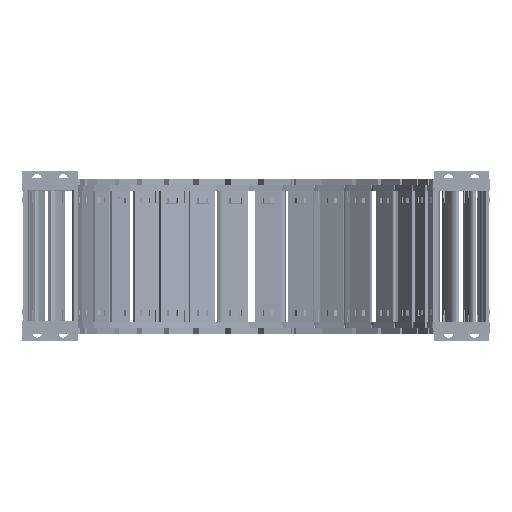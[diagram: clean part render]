
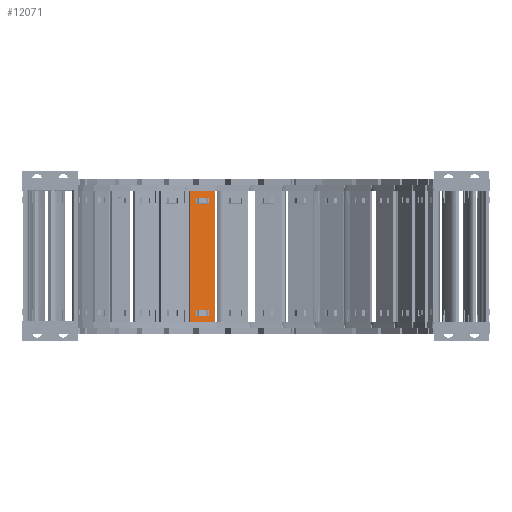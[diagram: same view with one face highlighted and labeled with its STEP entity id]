
A CAD part, top view. The second image highlights one B-rep face of the part: STEP entity #12071.
In plain terms, the highlighted planar face has unit normal (0.276, 0, 0.961).
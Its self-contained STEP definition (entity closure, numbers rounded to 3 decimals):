
#93=FACE_BOUND('',#29521,.T.);
#94=FACE_BOUND('',#29522,.T.);
#95=FACE_BOUND('',#29523,.T.);
#6626=PLANE('',#157334);
#12071=ADVANCED_FACE('',(#93,#94,#95),#6626,.F.);
#29521=EDGE_LOOP('',(#43709,#43710,#43711,#43712));
#29522=EDGE_LOOP('',(#43713,#43714,#43715,#43716));
#29523=EDGE_LOOP('',(#43717,#43718,#43719,#43720));
#43709=ORIENTED_EDGE('',*,*,#104001,.F.);
#43710=ORIENTED_EDGE('',*,*,#103972,.F.);
#43711=ORIENTED_EDGE('',*,*,#104006,.F.);
#43712=ORIENTED_EDGE('',*,*,#103983,.F.);
#43713=ORIENTED_EDGE('',*,*,#104018,.F.);
#43714=ORIENTED_EDGE('',*,*,#104011,.F.);
#43715=ORIENTED_EDGE('',*,*,#104050,.F.);
#43716=ORIENTED_EDGE('',*,*,#104025,.T.);
#43717=ORIENTED_EDGE('',*,*,#104048,.T.);
#43718=ORIENTED_EDGE('',*,*,#104051,.F.);
#43719=ORIENTED_EDGE('',*,*,#104052,.F.);
#43720=ORIENTED_EDGE('',*,*,#104053,.F.);
#88544=VERTEX_POINT('',#216627);
#88545=VERTEX_POINT('',#216629);
#88551=VERTEX_POINT('',#216644);
#88554=VERTEX_POINT('',#216650);
#88571=VERTEX_POINT('',#216707);
#88572=VERTEX_POINT('',#216708);
#88578=VERTEX_POINT('',#216722);
#88581=VERTEX_POINT('',#216730);
#88594=VERTEX_POINT('',#216777);
#88595=VERTEX_POINT('',#216779);
#88596=VERTEX_POINT('',#216784);
#88597=VERTEX_POINT('',#216786);
#103972=EDGE_CURVE('',#88544,#88545,#126762,.T.);
#103983=EDGE_CURVE('',#88554,#88551,#126773,.T.);
#104001=EDGE_CURVE('',#88545,#88554,#126788,.T.);
#104006=EDGE_CURVE('',#88551,#88544,#126793,.T.);
#104011=EDGE_CURVE('',#88571,#88572,#126798,.T.);
#104018=EDGE_CURVE('',#88572,#88578,#126805,.T.);
#104025=EDGE_CURVE('',#88581,#88578,#126812,.T.);
#104048=EDGE_CURVE('',#88595,#88594,#126826,.T.);
#104050=EDGE_CURVE('',#88581,#88571,#126828,.T.);
#104051=EDGE_CURVE('',#88596,#88594,#126829,.T.);
#104052=EDGE_CURVE('',#88597,#88596,#126830,.T.);
#104053=EDGE_CURVE('',#88595,#88597,#126831,.T.);
#126762=LINE('',#216628,#142054);
#126773=LINE('',#216651,#142065);
#126788=LINE('',#216686,#142080);
#126793=LINE('',#216695,#142085);
#126798=LINE('',#216706,#142090);
#126805=LINE('',#216721,#142097);
#126812=LINE('',#216734,#142104);
#126826=LINE('',#216778,#142118);
#126828=LINE('',#216782,#142120);
#126829=LINE('',#216783,#142121);
#126830=LINE('',#216785,#142122);
#126831=LINE('',#216787,#142123);
#142054=VECTOR('',#172519,1.);
#142065=VECTOR('',#172534,1.);
#142080=VECTOR('',#172569,1.);
#142085=VECTOR('',#172578,1.);
#142090=VECTOR('',#172587,1.);
#142097=VECTOR('',#172596,1.);
#142104=VECTOR('',#172605,1.);
#142118=VECTOR('',#172655,1.);
#142120=VECTOR('',#172659,1.);
#142121=VECTOR('',#172660,1.);
#142122=VECTOR('',#172661,1.);
#142123=VECTOR('',#172662,1.);
#157334=AXIS2_PLACEMENT_3D('',#216788,#172663,#172664);
#172519=DIRECTION('',(0.961,0.,-0.276));
#172534=DIRECTION('',(-0.961,0.,0.276));
#172569=DIRECTION('',(0.,1.,0.));
#172578=DIRECTION('',(0.,-1.,0.));
#172587=DIRECTION('',(-0.961,0.,0.276));
#172596=DIRECTION('',(0.,-1.,0.));
#172605=DIRECTION('',(-0.961,0.,0.276));
#172655=DIRECTION('',(0.,-1.,0.));
#172659=DIRECTION('',(0.,1.,0.));
#172660=DIRECTION('',(-0.961,0.,0.276));
#172661=DIRECTION('',(0.,-1.,0.));
#172662=DIRECTION('',(0.961,0.,-0.276));
#172663=DIRECTION('',(-0.276,0.,-0.961));
#172664=DIRECTION('',(-0.961,0.,0.276));
#216627=CARTESIAN_POINT('',(-162.921,-76.53,-123.898));
#216628=CARTESIAN_POINT('',(-162.921,-76.53,-123.898));
#216629=CARTESIAN_POINT('',(-155.087,-76.53,-126.144));
#216644=CARTESIAN_POINT('',(-162.921,-72.882,-123.898));
#216650=CARTESIAN_POINT('',(-155.087,-72.882,-126.144));
#216651=CARTESIAN_POINT('',(-155.087,-72.882,-126.144));
#216686=CARTESIAN_POINT('',(-155.087,-107.96,-126.144));
#216695=CARTESIAN_POINT('',(-162.921,-104.36,-123.898));
#216706=CARTESIAN_POINT('',(-155.087,-3.97,-126.144));
#216707=CARTESIAN_POINT('',(-155.087,-3.97,-126.144));
#216708=CARTESIAN_POINT('',(-162.921,-3.97,-123.898));
#216721=CARTESIAN_POINT('',(-162.921,-3.97,-123.898));
#216722=CARTESIAN_POINT('',(-162.921,-7.618,-123.898));
#216730=CARTESIAN_POINT('',(-155.087,-7.618,-126.144));
#216734=CARTESIAN_POINT('',(-155.087,-7.618,-126.144));
#216777=CARTESIAN_POINT('',(-166.598,-80.5,-122.843));
#216778=CARTESIAN_POINT('',(-166.598,0.,-122.843));
#216779=CARTESIAN_POINT('',(-166.598,0.,-122.843));
#216782=CARTESIAN_POINT('',(-155.087,-7.618,-126.144));
#216783=CARTESIAN_POINT('',(-151.41,-80.5,-127.198));
#216784=CARTESIAN_POINT('',(-151.41,-80.5,-127.198));
#216785=CARTESIAN_POINT('',(-151.41,0.,-127.198));
#216786=CARTESIAN_POINT('',(-151.41,0.,-127.198));
#216787=CARTESIAN_POINT('',(-166.598,0.,-122.843));
#216788=CARTESIAN_POINT('',(-149.333,31.74,-127.794));
